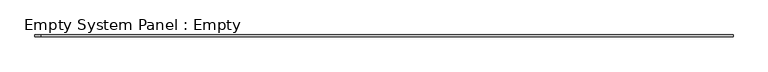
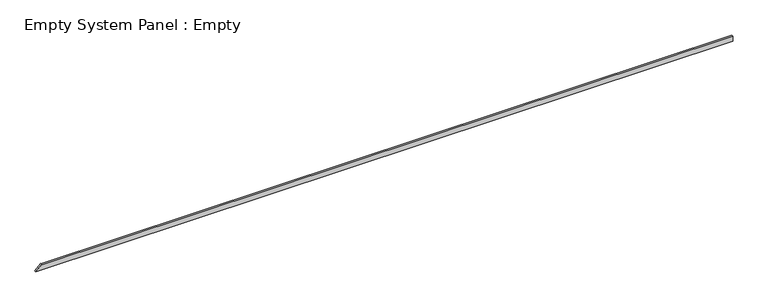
"""IFC4 building model written with IfcOpenShell, lengths in millimetres: plate geometry, Empty System Panel : Empty."""

from ifc_helpers import new_model, si_unit, frame, origin, place, context, project, spatial, polyline, outline, extrude, source, transform, mapped, element, save


def empty_system_panel_empty_9f7abfcc(model_context):
    return source(origin(), model_context, "Body", "SweptSolid", [
        extrude(outline(polyline([(0.0, -19793.7742407), (0.0, 19793.7742407), (310.0, 19793.7742407), (310.0, -19467.4252442), (330.0, -19467.4252442), (0.0, -19793.7742407)])), frame((0.0, -50.0, 0.0), z_axis=(0.0, 1.0, 0.0), x_axis=(0.0, 0.0, 1.0)), (0.0, 0.0, 1.0), 100.0),
    ])


if __name__ == "__main__":
    model = new_model("IFC4")
    model_context = context("Model", 3, world=origin())
    ifc_project = project(units=[si_unit("LENGTHUNIT", "METRE", prefix="MILLI")], contexts=[model_context])
    site = spatial("IfcSite", under=ifc_project)
    building = spatial("IfcBuilding", under=site)
    placement = place(None, origin())
    empty_system_panel_empty_shape = empty_system_panel_empty_9f7abfcc(model_context)
    element("IfcPlate", 1, ObjectType="Empty System Panel : Empty", at=placement, inside=building, context=model_context, shape_type="MappedRepresentation", body=[
        mapped(empty_system_panel_empty_shape, transform((0.0, 0.0, 0.0), x_axis=(1.0, 0.0, 0.0), y_axis=(0.0, 1.0, 0.0), z_axis=(0.0, 0.0, 1.0))),
    ])
    save(model, "model.ifc")
